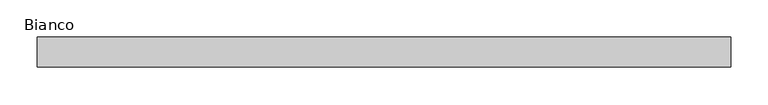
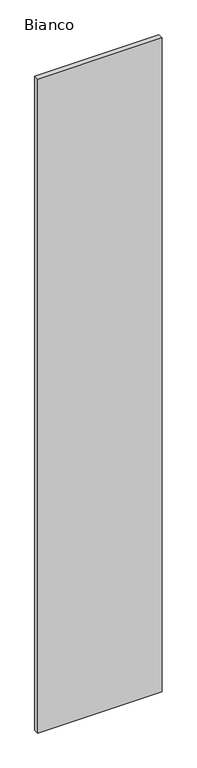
"""IFC4 building model written with IfcOpenShell, lengths in millimetres: plate geometry, Lod 200 Regolare 800 Vertical : Bianco."""

from ifc_helpers import new_model, si_unit, origin, origin_with_axes, place, context, project, spatial, polyline, outline, extrude, source, transform, mapped, element, save


def bianco_527799fc(model_context):
    return source(origin(), model_context, "Body", "SweptSolid", [
        extrude(outline(polyline([(465.0, 40.0), (465.0, 0.0), (-465.0, 0.0), (-465.0, 40.0), (465.0, 40.0)])), origin_with_axes(), (0.0, 0.0, 1.0), 5176.3809021),
    ])


if __name__ == "__main__":
    model = new_model("IFC4")
    model_context = context("Model", 3, world=origin())
    ifc_project = project(units=[si_unit("LENGTHUNIT", "METRE", prefix="MILLI")], contexts=[model_context])
    site = spatial("IfcSite", under=ifc_project)
    building = spatial("IfcBuilding", under=site)
    placement = place(None, origin())
    bianco_shape = bianco_527799fc(model_context)
    element("IfcPlate", 1, ObjectType="Lod 200 Regolare 800 Vertical : Bianco", at=placement, inside=building, context=model_context, shape_type="MappedRepresentation", body=[
        mapped(bianco_shape, transform((0.0, 0.0, 0.0), x_axis=(1.0, 0.0, 0.0), y_axis=(0.0, 1.0, 0.0), z_axis=(0.0, 0.0, 1.0))),
    ])
    save(model, "model.ifc")
